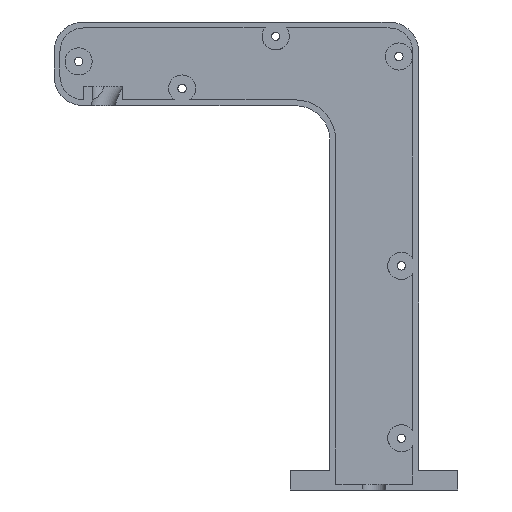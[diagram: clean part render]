
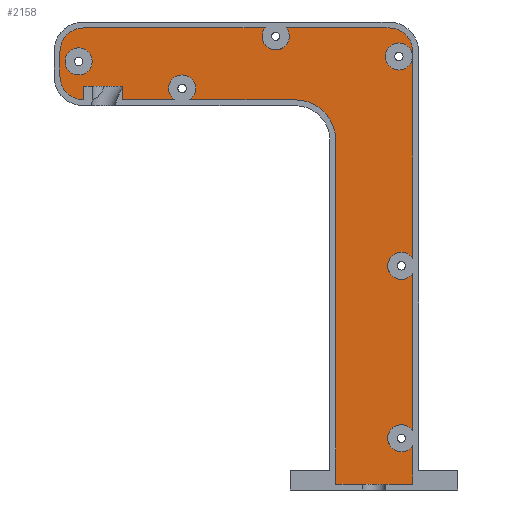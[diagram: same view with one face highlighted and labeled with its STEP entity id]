
A CAD part, left-side view. The second image highlights one B-rep face of the part: STEP entity #2158.
In plain terms, the highlighted planar face has unit normal (-1, 0, 0).
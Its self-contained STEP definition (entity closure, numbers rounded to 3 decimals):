
#1023 = VERTEX_POINT('',#1024);
#1024 = CARTESIAN_POINT('',(18.6,109.6,184.));
#1030 = EDGE_CURVE('',#1023,#1031,#1033,.T.);
#1031 = VERTEX_POINT('',#1032);
#1032 = CARTESIAN_POINT('',(18.6,100.,174.4));
#1033 = CIRCLE('',#1034,9.6);
#1034 = AXIS2_PLACEMENT_3D('',#1035,#1036,#1037);
#1035 = CARTESIAN_POINT('',(18.6,100.,184.));
#1036 = DIRECTION('',(-1.,0.,0.));
#1037 = DIRECTION('',(0.,1.,0.));
#1056 = VERTEX_POINT('',#1057);
#1057 = CARTESIAN_POINT('',(18.6,109.6,194.));
#1063 = EDGE_CURVE('',#1056,#1023,#1064,.T.);
#1064 = LINE('',#1065,#1066);
#1065 = CARTESIAN_POINT('',(18.6,109.6,194.));
#1066 = VECTOR('',#1067,1.);
#1067 = DIRECTION('',(0.,0.,-1.));
#1080 = VERTEX_POINT('',#1081);
#1081 = CARTESIAN_POINT('',(18.6,100.,203.6));
#1087 = EDGE_CURVE('',#1080,#1056,#1088,.T.);
#1088 = CIRCLE('',#1089,9.6);
#1089 = AXIS2_PLACEMENT_3D('',#1090,#1091,#1092);
#1090 = CARTESIAN_POINT('',(18.6,100.,194.));
#1091 = DIRECTION('',(-1.,0.,0.));
#1092 = DIRECTION('',(0.,0.,1.));
#1105 = VERTEX_POINT('',#1106);
#1106 = CARTESIAN_POINT('',(18.6,26.323,203.6));
#1112 = EDGE_CURVE('',#1105,#1080,#1113,.T.);
#1113 = LINE('',#1114,#1115);
#1114 = CARTESIAN_POINT('',(18.6,-24.,203.6));
#1115 = VECTOR('',#1116,1.);
#1116 = DIRECTION('',(0.,1.,0.));
#1128 = VERTEX_POINT('',#1129);
#1129 = CARTESIAN_POINT('',(18.6,17.677,203.6));
#1164 = EDGE_CURVE('',#1128,#1105,#1165,.T.);
#1165 = CIRCLE('',#1166,5.5);
#1166 = AXIS2_PLACEMENT_3D('',#1167,#1168,#1169);
#1167 = CARTESIAN_POINT('',(18.6,22.,200.2));
#1168 = DIRECTION('',(1.,0.,-0.));
#1169 = DIRECTION('',(0.,0.,1.));
#1194 = VERTEX_POINT('',#1195);
#1195 = CARTESIAN_POINT('',(18.6,-24.,203.6));
#1201 = EDGE_CURVE('',#1194,#1128,#1202,.T.);
#1202 = LINE('',#1203,#1204);
#1203 = CARTESIAN_POINT('',(18.6,-24.,203.6));
#1204 = VECTOR('',#1205,1.);
#1205 = DIRECTION('',(0.,1.,0.));
#1240 = VERTEX_POINT('',#1241);
#1241 = CARTESIAN_POINT('',(18.6,-33.6,194.));
#1247 = EDGE_CURVE('',#1240,#1194,#1248,.T.);
#1248 = CIRCLE('',#1249,9.6);
#1249 = AXIS2_PLACEMENT_3D('',#1250,#1251,#1252);
#1250 = CARTESIAN_POINT('',(18.6,-24.,194.));
#1251 = DIRECTION('',(-1.,0.,0.));
#1252 = DIRECTION('',(0.,-1.,0.));
#1265 = VERTEX_POINT('',#1266);
#1266 = CARTESIAN_POINT('',(18.6,-33.6,110.015));
#1272 = EDGE_CURVE('',#1265,#1240,#1273,.T.);
#1273 = LINE('',#1274,#1275);
#1274 = CARTESIAN_POINT('',(18.6,-33.6,18.4));
#1275 = VECTOR('',#1276,1.);
#1276 = DIRECTION('',(0.,0.,1.));
#1289 = EDGE_CURVE('',#1290,#1265,#1292,.T.);
#1290 = VERTEX_POINT('',#1291);
#1291 = CARTESIAN_POINT('',(18.6,-29.,112.5));
#1292 = CIRCLE('',#1293,5.5);
#1293 = AXIS2_PLACEMENT_3D('',#1294,#1295,#1296);
#1294 = CARTESIAN_POINT('',(18.6,-29.,107.));
#1295 = DIRECTION('',(1.,0.,-0.));
#1296 = DIRECTION('',(0.,0.,1.));
#1298 = EDGE_CURVE('',#1299,#1290,#1301,.T.);
#1299 = VERTEX_POINT('',#1300);
#1300 = CARTESIAN_POINT('',(18.6,-33.6,103.985));
#1301 = CIRCLE('',#1302,5.5);
#1302 = AXIS2_PLACEMENT_3D('',#1303,#1304,#1305);
#1303 = CARTESIAN_POINT('',(18.6,-29.,107.));
#1304 = DIRECTION('',(1.,0.,-0.));
#1305 = DIRECTION('',(0.,0.,1.));
#1323 = VERTEX_POINT('',#1324);
#1324 = CARTESIAN_POINT('',(18.6,-33.6,40.015));
#1330 = EDGE_CURVE('',#1323,#1299,#1331,.T.);
#1331 = LINE('',#1332,#1333);
#1332 = CARTESIAN_POINT('',(18.6,-33.6,18.4));
#1333 = VECTOR('',#1334,1.);
#1334 = DIRECTION('',(0.,0.,1.));
#1347 = EDGE_CURVE('',#1348,#1323,#1350,.T.);
#1348 = VERTEX_POINT('',#1349);
#1349 = CARTESIAN_POINT('',(18.6,-29.,42.5));
#1350 = CIRCLE('',#1351,5.5);
#1351 = AXIS2_PLACEMENT_3D('',#1352,#1353,#1354);
#1352 = CARTESIAN_POINT('',(18.6,-29.,37.));
#1353 = DIRECTION('',(1.,0.,-0.));
#1354 = DIRECTION('',(0.,0.,1.));
#1356 = EDGE_CURVE('',#1357,#1348,#1359,.T.);
#1357 = VERTEX_POINT('',#1358);
#1358 = CARTESIAN_POINT('',(18.6,-33.6,33.985));
#1359 = CIRCLE('',#1360,5.5);
#1360 = AXIS2_PLACEMENT_3D('',#1361,#1362,#1363);
#1361 = CARTESIAN_POINT('',(18.6,-29.,37.));
#1362 = DIRECTION('',(1.,0.,-0.));
#1363 = DIRECTION('',(0.,0.,1.));
#1381 = VERTEX_POINT('',#1382);
#1382 = CARTESIAN_POINT('',(18.6,-33.6,18.4));
#1388 = EDGE_CURVE('',#1381,#1357,#1389,.T.);
#1389 = LINE('',#1390,#1391);
#1390 = CARTESIAN_POINT('',(18.6,-33.6,18.4));
#1391 = VECTOR('',#1392,1.);
#1392 = DIRECTION('',(0.,0.,1.));
#1414 = VERTEX_POINT('',#1415);
#1415 = CARTESIAN_POINT('',(18.6,-2.4,18.4));
#1421 = EDGE_CURVE('',#1414,#1381,#1422,.T.);
#1422 = LINE('',#1423,#1424);
#1423 = CARTESIAN_POINT('',(18.6,-2.4,18.4));
#1424 = VECTOR('',#1425,1.);
#1425 = DIRECTION('',(0.,-1.,0.));
#2137 = VERTEX_POINT('',#2138);
#2138 = CARTESIAN_POINT('',(18.6,63.015,174.4));
#2148 = EDGE_CURVE('',#1031,#2137,#2149,.T.);
#2149 = LINE('',#2150,#2151);
#2150 = CARTESIAN_POINT('',(18.6,100.,174.4));
#2151 = VECTOR('',#2152,1.);
#2152 = DIRECTION('',(0.,-1.,0.));
#2158 = ADVANCED_FACE('',(#2159,#2218,#2229),#2240,.T.);
#2159 = FACE_BOUND('',#2160,.T.);
#2160 = EDGE_LOOP('',(#2161,#2171,#2180,#2186,#2187,#2188,#2189,#2190,
    #2191,#2192,#2193,#2194,#2195,#2196,#2197,#2198,#2199,#2200,#2201,
    #2202,#2211));
#2161 = ORIENTED_EDGE('',*,*,#2162,.T.);
#2162 = EDGE_CURVE('',#2163,#2165,#2167,.T.);
#2163 = VERTEX_POINT('',#2164);
#2164 = CARTESIAN_POINT('',(18.6,56.985,174.4));
#2165 = VERTEX_POINT('',#2166);
#2166 = CARTESIAN_POINT('',(18.6,14.,174.4));
#2167 = LINE('',#2168,#2169);
#2168 = CARTESIAN_POINT('',(18.6,100.,174.4));
#2169 = VECTOR('',#2170,1.);
#2170 = DIRECTION('',(0.,-1.,0.));
#2171 = ORIENTED_EDGE('',*,*,#2172,.T.);
#2172 = EDGE_CURVE('',#2165,#2173,#2175,.T.);
#2173 = VERTEX_POINT('',#2174);
#2174 = CARTESIAN_POINT('',(18.6,-2.4,158.));
#2175 = CIRCLE('',#2176,16.4);
#2176 = AXIS2_PLACEMENT_3D('',#2177,#2178,#2179);
#2177 = CARTESIAN_POINT('',(18.6,14.,158.));
#2178 = DIRECTION('',(1.,0.,0.));
#2179 = DIRECTION('',(0.,0.,1.));
#2180 = ORIENTED_EDGE('',*,*,#2181,.T.);
#2181 = EDGE_CURVE('',#2173,#1414,#2182,.T.);
#2182 = LINE('',#2183,#2184);
#2183 = CARTESIAN_POINT('',(18.6,-2.4,158.));
#2184 = VECTOR('',#2185,1.);
#2185 = DIRECTION('',(0.,0.,-1.));
#2186 = ORIENTED_EDGE('',*,*,#1421,.T.);
#2187 = ORIENTED_EDGE('',*,*,#1388,.T.);
#2188 = ORIENTED_EDGE('',*,*,#1356,.T.);
#2189 = ORIENTED_EDGE('',*,*,#1347,.T.);
#2190 = ORIENTED_EDGE('',*,*,#1330,.T.);
#2191 = ORIENTED_EDGE('',*,*,#1298,.T.);
#2192 = ORIENTED_EDGE('',*,*,#1289,.T.);
#2193 = ORIENTED_EDGE('',*,*,#1272,.T.);
#2194 = ORIENTED_EDGE('',*,*,#1247,.T.);
#2195 = ORIENTED_EDGE('',*,*,#1201,.T.);
#2196 = ORIENTED_EDGE('',*,*,#1164,.T.);
#2197 = ORIENTED_EDGE('',*,*,#1112,.T.);
#2198 = ORIENTED_EDGE('',*,*,#1087,.T.);
#2199 = ORIENTED_EDGE('',*,*,#1063,.T.);
#2200 = ORIENTED_EDGE('',*,*,#1030,.T.);
#2201 = ORIENTED_EDGE('',*,*,#2148,.T.);
#2202 = ORIENTED_EDGE('',*,*,#2203,.T.);
#2203 = EDGE_CURVE('',#2137,#2204,#2206,.T.);
#2204 = VERTEX_POINT('',#2205);
#2205 = CARTESIAN_POINT('',(18.6,60.,184.5));
#2206 = CIRCLE('',#2207,5.5);
#2207 = AXIS2_PLACEMENT_3D('',#2208,#2209,#2210);
#2208 = CARTESIAN_POINT('',(18.6,60.,179.));
#2209 = DIRECTION('',(1.,0.,-0.));
#2210 = DIRECTION('',(0.,0.,1.));
#2211 = ORIENTED_EDGE('',*,*,#2212,.T.);
#2212 = EDGE_CURVE('',#2204,#2163,#2213,.T.);
#2213 = CIRCLE('',#2214,5.5);
#2214 = AXIS2_PLACEMENT_3D('',#2215,#2216,#2217);
#2215 = CARTESIAN_POINT('',(18.6,60.,179.));
#2216 = DIRECTION('',(1.,0.,-0.));
#2217 = DIRECTION('',(0.,0.,1.));
#2218 = FACE_BOUND('',#2219,.T.);
#2219 = EDGE_LOOP('',(#2220));
#2220 = ORIENTED_EDGE('',*,*,#2221,.T.);
#2221 = EDGE_CURVE('',#2222,#2222,#2224,.T.);
#2222 = VERTEX_POINT('',#2223);
#2223 = CARTESIAN_POINT('',(18.6,102.,195.5));
#2224 = CIRCLE('',#2225,5.5);
#2225 = AXIS2_PLACEMENT_3D('',#2226,#2227,#2228);
#2226 = CARTESIAN_POINT('',(18.6,102.,190.));
#2227 = DIRECTION('',(1.,0.,-0.));
#2228 = DIRECTION('',(0.,0.,1.));
#2229 = FACE_BOUND('',#2230,.T.);
#2230 = EDGE_LOOP('',(#2231));
#2231 = ORIENTED_EDGE('',*,*,#2232,.T.);
#2232 = EDGE_CURVE('',#2233,#2233,#2235,.T.);
#2233 = VERTEX_POINT('',#2234);
#2234 = CARTESIAN_POINT('',(18.6,-28.,197.5));
#2235 = CIRCLE('',#2236,5.5);
#2236 = AXIS2_PLACEMENT_3D('',#2237,#2238,#2239);
#2237 = CARTESIAN_POINT('',(18.6,-28.,192.));
#2238 = DIRECTION('',(1.,0.,-0.));
#2239 = DIRECTION('',(0.,0.,1.));
#2240 = PLANE('',#2241);
#2241 = AXIS2_PLACEMENT_3D('',#2242,#2243,#2244);
#2242 = CARTESIAN_POINT('',(18.6,10.561,135.99));
#2243 = DIRECTION('',(-1.,-0.,-0.));
#2244 = DIRECTION('',(0.,0.,-1.));
